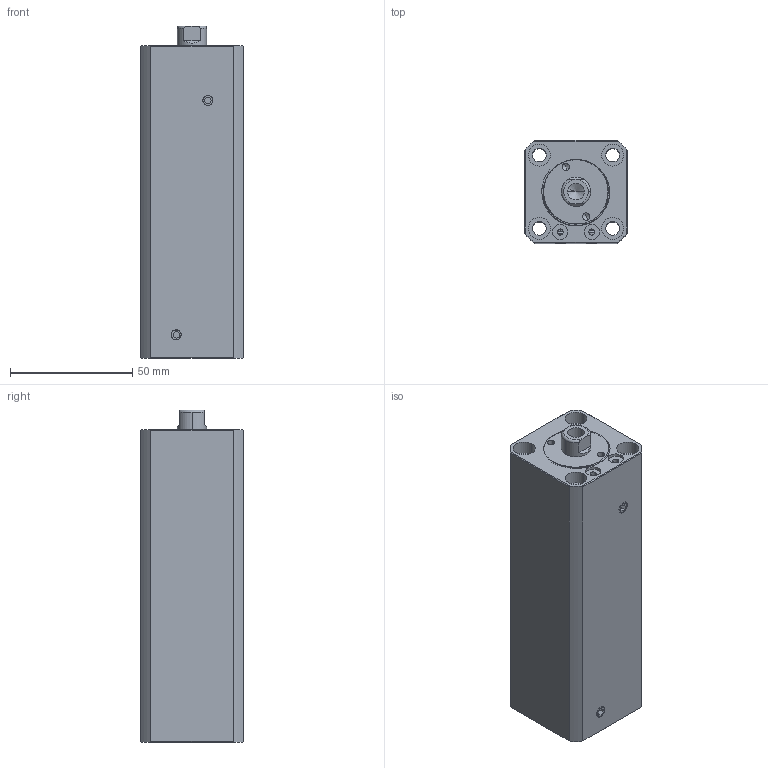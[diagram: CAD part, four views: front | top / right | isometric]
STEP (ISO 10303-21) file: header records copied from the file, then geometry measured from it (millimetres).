
FILE_DESCRIPTION (( 'STEP AP214' ), '1' );
FILE_NAME ('chtb-sdma20x85n_asm.STEP', '2018-05-18T06:54:03', ( '' ), ( '' ), 'SwSTEP 2.0', 'SolidWorks 2016', '' );
FILE_SCHEMA (( 'AUTOMOTIVE_DESIGN' ));
Length unit declared in the file: millimetre
Products named in the file (5): socket set screw flat point_iso_ISO 4026 - M5 x 5-N; QG_3; CHTB-SDMA20X85NHSG; CHTB-SDMA20X85NBT; chtb-sdma20x85n_asm
Assembly tree (5 placements, depth 2):
  chtb-sdma20x85n_asm
    CHTB-SDMA20X85NBT
    CHTB-SDMA20X85NHSG
    QG_3
    socket set screw flat point_iso_ISO 4026 - M5 x 5-N  x2
Bounding box: 42 x 42 x 136 mm (x, y, z)
Volume: 188527.5 mm3; surface area: 53510.6 mm2
Topology: 5 solids, 5 shells, 232 faces, 602 edges, 396 vertices
Faces by surface type: cylinder 111, plane 61, torus 25, bspline 21, cone 14
Entity records: 12042 total; most frequent: CARTESIAN_POINT 6742, ORIENTED_EDGE 1128, DIRECTION 1000, EDGE_CURVE 564, AXIS2_PLACEMENT_3D 415, VERTEX_POINT 376, EDGE_LOOP 256, FACE_OUTER_BOUND 217
